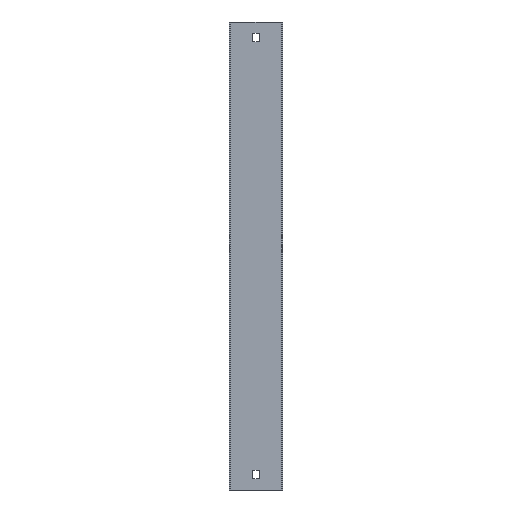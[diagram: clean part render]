
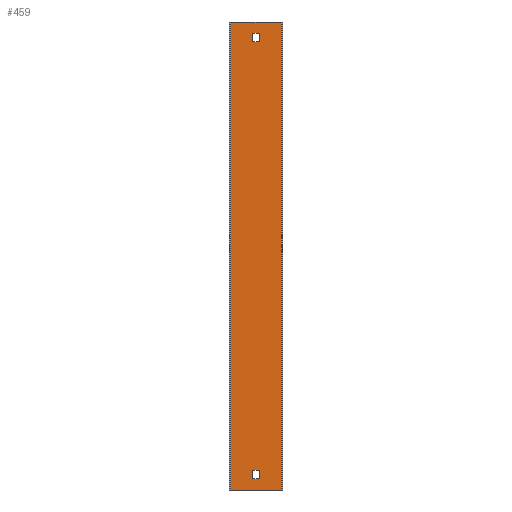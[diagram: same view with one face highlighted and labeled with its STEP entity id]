
A CAD part, front view. The second image highlights one B-rep face of the part: STEP entity #459.
In plain terms, the highlighted planar face has unit normal (0, -1, 0).
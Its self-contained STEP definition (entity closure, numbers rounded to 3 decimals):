
#6 = VECTOR ( 'NONE', #89, 1000. ) ;
#10 = CARTESIAN_POINT ( 'NONE',  ( 3.25, -1.5, 250. ) ) ;
#11 = ORIENTED_EDGE ( 'NONE', *, *, #534, .T. ) ;
#16 = CARTESIAN_POINT ( 'NONE',  ( -28.5, -1.5, -238. ) ) ;
#17 = DIRECTION ( 'NONE',  ( 1., 0., 0. ) ) ;
#28 = VERTEX_POINT ( 'NONE', #81 ) ;
#30 = CARTESIAN_POINT ( 'NONE',  ( 3.25, -1.5, -229. ) ) ;
#32 = CARTESIAN_POINT ( 'NONE',  ( 3.25, -1.5, 238. ) ) ;
#33 = ORIENTED_EDGE ( 'NONE', *, *, #116, .T. ) ;
#36 = DIRECTION ( 'NONE',  ( -1., 0., 0. ) ) ;
#38 = DIRECTION ( 'NONE',  ( 0., 0., -1. ) ) ;
#43 = CARTESIAN_POINT ( 'NONE',  ( -28.5, -1.5, 250. ) ) ;
#46 = VECTOR ( 'NONE', #36, 1000. ) ;
#48 = CARTESIAN_POINT ( 'NONE',  ( 27., -1.5, -250. ) ) ;
#49 = VERTEX_POINT ( 'NONE', #32 ) ;
#63 = DIRECTION ( 'NONE',  ( 0., 0., 1. ) ) ;
#67 = EDGE_CURVE ( 'NONE', #489, #241, #383, .T. ) ;
#72 = VECTOR ( 'NONE', #17, 1000. ) ;
#76 = LINE ( 'NONE', #16, #130 ) ;
#78 = ORIENTED_EDGE ( 'NONE', *, *, #341, .T. ) ;
#79 = CARTESIAN_POINT ( 'NONE',  ( -3.25, -1.5, 250. ) ) ;
#80 = VERTEX_POINT ( 'NONE', #30 ) ;
#81 = CARTESIAN_POINT ( 'NONE',  ( -3.25, -1.5, 229. ) ) ;
#82 = CARTESIAN_POINT ( 'NONE',  ( -28.5, -1.5, -250. ) ) ;
#89 = DIRECTION ( 'NONE',  ( 0., 0., -1. ) ) ;
#98 = CARTESIAN_POINT ( 'NONE',  ( -27., -1.5, 250. ) ) ;
#102 = LINE ( 'NONE', #188, #397 ) ;
#104 = CARTESIAN_POINT ( 'NONE',  ( -27., -1.5, 250. ) ) ;
#106 = DIRECTION ( 'NONE',  ( 0., 0., 1. ) ) ;
#108 = VERTEX_POINT ( 'NONE', #532 ) ;
#111 = AXIS2_PLACEMENT_3D ( 'NONE', #43, #207, #38 ) ;
#116 = EDGE_CURVE ( 'NONE', #80, #349, #343, .T. ) ;
#130 = VECTOR ( 'NONE', #205, 1000. ) ;
#135 = FACE_BOUND ( 'NONE', #227, .T. ) ;
#168 = VERTEX_POINT ( 'NONE', #98 ) ;
#181 = VECTOR ( 'NONE', #342, 1000. ) ;
#184 = ORIENTED_EDGE ( 'NONE', *, *, #525, .F. ) ;
#188 = CARTESIAN_POINT ( 'NONE',  ( -28.5, -1.5, 250. ) ) ;
#192 = DIRECTION ( 'NONE',  ( 0., 0., -1. ) ) ;
#204 = EDGE_LOOP ( 'NONE', ( #426, #456, #392, #11 ) ) ;
#205 = DIRECTION ( 'NONE',  ( -1., 0., 0. ) ) ;
#207 = DIRECTION ( 'NONE',  ( 0., -1., 0. ) ) ;
#225 = CARTESIAN_POINT ( 'NONE',  ( -3.25, -1.5, 238. ) ) ;
#227 = EDGE_LOOP ( 'NONE', ( #405, #78, #272, #33 ) ) ;
#234 = LINE ( 'NONE', #410, #265 ) ;
#236 = DIRECTION ( 'NONE',  ( 0., 0., -1. ) ) ;
#241 = VERTEX_POINT ( 'NONE', #504 ) ;
#254 = PLANE ( 'NONE',  #111 ) ;
#265 = VECTOR ( 'NONE', #192, 1000. ) ;
#270 = CARTESIAN_POINT ( 'NONE',  ( 3.25, -1.5, -238. ) ) ;
#271 = CARTESIAN_POINT ( 'NONE',  ( -28.5, -1.5, -229. ) ) ;
#272 = ORIENTED_EDGE ( 'NONE', *, *, #281, .T. ) ;
#277 = LINE ( 'NONE', #271, #72 ) ;
#281 = EDGE_CURVE ( 'NONE', #517, #80, #277, .T. ) ;
#289 = CARTESIAN_POINT ( 'NONE',  ( 3.25, -1.5, 250. ) ) ;
#295 = FACE_BOUND ( 'NONE', #345, .T. ) ;
#298 = FACE_OUTER_BOUND ( 'NONE', #204, .T. ) ;
#306 = EDGE_CURVE ( 'NONE', #402, #28, #558, .T. ) ;
#311 = CARTESIAN_POINT ( 'NONE',  ( -3.25, -1.5, 250. ) ) ;
#332 = VERTEX_POINT ( 'NONE', #511 ) ;
#334 = DIRECTION ( 'NONE',  ( -1., 0., 0. ) ) ;
#337 = CARTESIAN_POINT ( 'NONE',  ( -28.5, -1.5, 238. ) ) ;
#341 = EDGE_CURVE ( 'NONE', #108, #517, #465, .T. ) ;
#342 = DIRECTION ( 'NONE',  ( 1., 0., 0. ) ) ;
#343 = LINE ( 'NONE', #289, #6 ) ;
#345 = EDGE_LOOP ( 'NONE', ( #523, #367, #184, #573 ) ) ;
#349 = VERTEX_POINT ( 'NONE', #270 ) ;
#354 = EDGE_CURVE ( 'NONE', #332, #168, #102, .T. ) ;
#367 = ORIENTED_EDGE ( 'NONE', *, *, #483, .F. ) ;
#374 = VECTOR ( 'NONE', #63, 1000. ) ;
#383 = LINE ( 'NONE', #82, #46 ) ;
#392 = ORIENTED_EDGE ( 'NONE', *, *, #354, .T. ) ;
#397 = VECTOR ( 'NONE', #334, 1000. ) ;
#402 = VERTEX_POINT ( 'NONE', #225 ) ;
#405 = ORIENTED_EDGE ( 'NONE', *, *, #409, .T. ) ;
#409 = EDGE_CURVE ( 'NONE', #349, #108, #76, .T. ) ;
#410 = CARTESIAN_POINT ( 'NONE',  ( 27., -1.5, 250. ) ) ;
#416 = LINE ( 'NONE', #10, #374 ) ;
#426 = ORIENTED_EDGE ( 'NONE', *, *, #67, .F. ) ;
#434 = EDGE_CURVE ( 'NONE', #332, #489, #234, .T. ) ;
#450 = DIRECTION ( 'NONE',  ( -1., 0., 0. ) ) ;
#453 = CARTESIAN_POINT ( 'NONE',  ( 3.25, -1.5, 229. ) ) ;
#456 = ORIENTED_EDGE ( 'NONE', *, *, #434, .F. ) ;
#459 = ADVANCED_FACE ( 'NONE', ( #295, #298, #135 ), #254, .T. ) ;
#465 = LINE ( 'NONE', #311, #586 ) ;
#471 = VECTOR ( 'NONE', #236, 1000. ) ;
#473 = EDGE_CURVE ( 'NONE', #28, #524, #582, .T. ) ;
#483 = EDGE_CURVE ( 'NONE', #49, #402, #588, .T. ) ;
#486 = VECTOR ( 'NONE', #502, 1000. ) ;
#489 = VERTEX_POINT ( 'NONE', #48 ) ;
#490 = VECTOR ( 'NONE', #450, 1000. ) ;
#502 = DIRECTION ( 'NONE',  ( 0., 0., -1. ) ) ;
#504 = CARTESIAN_POINT ( 'NONE',  ( -27., -1.5, -250. ) ) ;
#511 = CARTESIAN_POINT ( 'NONE',  ( 27., -1.5, 250. ) ) ;
#514 = LINE ( 'NONE', #104, #486 ) ;
#517 = VERTEX_POINT ( 'NONE', #542 ) ;
#523 = ORIENTED_EDGE ( 'NONE', *, *, #306, .F. ) ;
#524 = VERTEX_POINT ( 'NONE', #453 ) ;
#525 = EDGE_CURVE ( 'NONE', #524, #49, #416, .T. ) ;
#532 = CARTESIAN_POINT ( 'NONE',  ( -3.25, -1.5, -238. ) ) ;
#534 = EDGE_CURVE ( 'NONE', #168, #241, #514, .T. ) ;
#542 = CARTESIAN_POINT ( 'NONE',  ( -3.25, -1.5, -229. ) ) ;
#558 = LINE ( 'NONE', #79, #471 ) ;
#573 = ORIENTED_EDGE ( 'NONE', *, *, #473, .F. ) ;
#582 = LINE ( 'NONE', #590, #181 ) ;
#586 = VECTOR ( 'NONE', #106, 1000. ) ;
#588 = LINE ( 'NONE', #337, #490 ) ;
#590 = CARTESIAN_POINT ( 'NONE',  ( -28.5, -1.5, 229. ) ) ;
